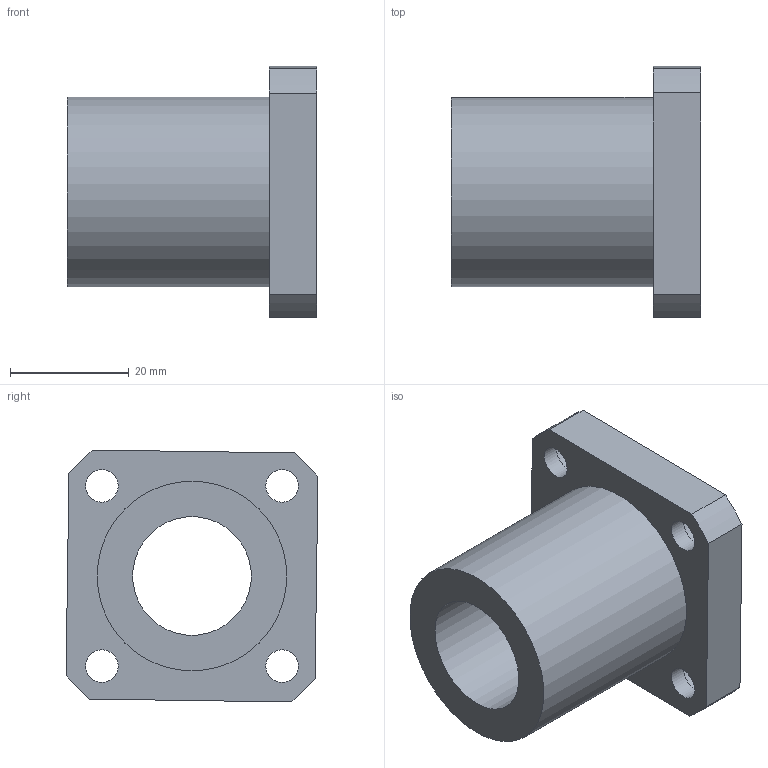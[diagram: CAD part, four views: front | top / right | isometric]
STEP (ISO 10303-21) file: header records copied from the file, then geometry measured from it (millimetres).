
FILE_DESCRIPTION(/* description */ (''),/* implementation_level */ '2;1');
FILE_NAME(/* name */ 'LMK20UU',/* time_stamp */ '2019-07-09T15:13:13+02:00',/* author */ ('VĂ©gh MĂˇtĂ©'),/* organization */ ('Bearing Kft'),/* preprocessor_version */ 'ST-DEVELOPER v16.7',/* originating_system */ 'DEX',/* authorisation */ $);
FILE_SCHEMA (('AUTOMOTIVE_DESIGN {1 0 10303 214 3 1 1}'));
Length unit declared in the file: millimetre
Products named in the file (1): LMK20UU
Bounding box: 42 x 42.49 x 42.49 mm (x, y, z)
Volume: 26443.3 mm3; surface area: 10774.2 mm2
Topology: 1 solids, 1 shells, 324 faces, 813 edges, 542 vertices
Faces by surface type: plane 249, bspline 59, cylinder 16
Full cylindrical faces by diameter (mm): 5.5 x4, 9 x4, 20 x1, 32 x1
Entity records: 12518 total; most frequent: CARTESIAN_POINT 5104, ORIENTED_EDGE 1600, DIRECTION 1246, EDGE_CURVE 800, LINE 650, VECTOR 650, VERTEX_POINT 542, EDGE_LOOP 398
